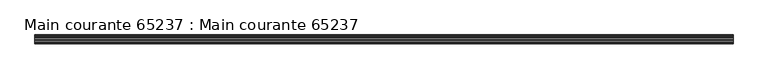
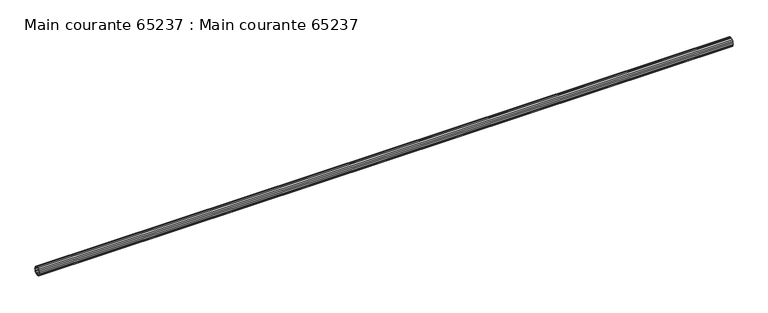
"""IFC4 building model written with IfcOpenShell, lengths in millimetres: beam geometry, Main courante 65237 : Main courante 65237."""

import ifcopenshell
import ifcopenshell.guid

model = None  # the IFC model being written
_history = None  # IfcOwnerHistory: only IFC2X3 demands one
_inside = {}  # id of a spatial element -> (the spatial element, [elements in it])
_under = {}  # id of a project, library or spatial element -> (it, [spatial elements below it])
_declared = {}  # id of a project -> (the project, [libraries it declares])
_typed = {}  # id of a type object -> (the type object, [elements of that type])
_made_of = {}  # id of a material, layer set ... -> (it, [elements and type objects made of it])


def new_model(schema):
    """Start an empty IFC model of exactly this schema.

    Asked for "IFC4X3", IfcOpenShell would pick the latest addendum, in which some entities
    have other attributes; the version numbers below select the first issue.
    IFC2X3 requires an IfcOwnerHistory on every rooted entity: one is made here for all.
    """
    global model, _history
    if schema == "IFC4X3":
        model = ifcopenshell.file(schema_version=(4, 3, 0, 0))
    else:
        model = ifcopenshell.file(schema=schema)
    _inside.clear()
    _under.clear()
    _declared.clear()
    _typed.clear()
    _made_of.clear()
    _history = None
    if model.schema == "IFC2X3":
        org = make("IfcOrganization", Name="unknown")
        user = make(
            "IfcPersonAndOrganization",
            ThePerson=make("IfcPerson", FamilyName="unknown"),
            TheOrganization=org,
        )
        app = make(
            "IfcApplication",
            ApplicationDeveloper=org,
            Version="unknown",
            ApplicationFullName="unknown",
            ApplicationIdentifier="unknown",
        )
        _history = make(
            "IfcOwnerHistory",
            OwningUser=user,
            OwningApplication=app,
            ChangeAction="ADDED",
            CreationDate=0,
        )
    return model


def make(cls, **values):
    """One entity of the class cls with the attributes given. An attribute that is None is left unset."""
    return model.create_entity(
        cls, **{name: value for name, value in values.items() if value is not None}
    )


def rooted(cls, **values):
    """An entity with a GlobalId (a new one), such as an element, a storey or a relation."""
    return make(cls, GlobalId=ifcopenshell.guid.new(), OwnerHistory=_history, **values)


def si_unit(unit_type, name, prefix=None):
    """IfcSIUnit, for example si_unit("LENGTHUNIT", "METRE", prefix="MILLI")."""
    return make("IfcSIUnit", UnitType=unit_type, Prefix=prefix, Name=name)


def assignment(units):
    """IfcUnitAssignment: the units of a project."""
    return None if units is None else make("IfcUnitAssignment", Units=units)


def point(xyz):
    """IfcCartesianPoint."""
    return None if xyz is None else make("IfcCartesianPoint", Coordinates=xyz)


def direction(xyz):
    """IfcDirection."""
    return None if xyz is None else make("IfcDirection", DirectionRatios=xyz)


def frame(location, z_axis=None, x_axis=None):
    """IfcAxis2Placement3D, a coordinate frame: its origin and axes. An axis left out is left unset."""
    return make(
        "IfcAxis2Placement3D",
        Location=point(location),
        Axis=direction(z_axis),
        RefDirection=direction(x_axis),
    )


def origin():
    """The frame at (0, 0, 0) with its axes left unset."""
    return frame((0.0, 0.0, 0.0))


def place(relative_to, where):
    """IfcLocalPlacement: puts the frame where relative to a parent placement (None: the world)."""
    return make(
        "IfcLocalPlacement", PlacementRelTo=relative_to, RelativePlacement=where
    )


def context(
    kind, dimensions, precision=None, world=None, true_north=None, identifier=None
):
    """IfcGeometricRepresentationContext, for example the 3D "Model" context."""
    return make(
        "IfcGeometricRepresentationContext",
        ContextIdentifier=identifier,
        ContextType=kind,
        CoordinateSpaceDimension=dimensions,
        Precision=precision,
        WorldCoordinateSystem=world,
        TrueNorth=true_north,
    )


def project(units=None, contexts=None):
    """IfcProject with its units and contexts."""
    return rooted(
        "IfcProject",
        Name="project",
        RepresentationContexts=contexts,
        UnitsInContext=assignment(units),
    )


def spatial(cls, under=None, at=None, **own):
    """A site, building, storey or space (cls), placed at a placement, below another one or the project."""
    s = rooted(cls, ObjectPlacement=at, **own)
    if under is not None:
        _under.setdefault(under.id(), (under, []))[1].append(s)
    return s


def polyline(points):
    """IfcPolyline through the points."""
    return make("IfcPolyline", Points=[point(p) for p in points])


def outline(outer, holes=None, kind="AREA"):
    """IfcArbitraryClosedProfileDef: a profile drawn as a closed curve; with holes, ...WithVoids."""
    if holes is None:
        return make("IfcArbitraryClosedProfileDef", ProfileType=kind, OuterCurve=outer)
    return make(
        "IfcArbitraryProfileDefWithVoids",
        ProfileType=kind,
        OuterCurve=outer,
        InnerCurves=holes,
    )


def extrude(swept, where, along, depth):
    """IfcExtrudedAreaSolid: the profile swept, set in the frame where, extruded along a direction by depth."""
    return make(
        "IfcExtrudedAreaSolid",
        SweptArea=swept,
        Position=where,
        ExtrudedDirection=direction(along),
        Depth=depth,
    )


def shape(context_of_items, identifier, shape_type, items):
    """IfcShapeRepresentation: the items that make up one representation, for example the "Body"."""
    return make(
        "IfcShapeRepresentation",
        ContextOfItems=context_of_items,
        RepresentationIdentifier=identifier,
        RepresentationType=shape_type,
        Items=items,
    )


def source(mapping_origin, context_of_items, identifier, shape_type, items):
    """IfcRepresentationMap: a shape defined once, which mapped items show again and again."""
    return make(
        "IfcRepresentationMap",
        MappingOrigin=mapping_origin,
        MappedRepresentation=shape(context_of_items, identifier, shape_type, items),
    )


def transform(
    local_origin,
    x_axis=None,
    y_axis=None,
    z_axis=None,
    scale=None,
    scale2=None,
    scale3=None,
    uniform=True,
):
    """IfcCartesianTransformationOperator3D, or its non-uniform kind. x_axis, y_axis, z_axis: its Axis1, 2, 3."""
    if uniform:
        return make(
            "IfcCartesianTransformationOperator3D",
            Axis1=direction(x_axis),
            Axis2=direction(y_axis),
            LocalOrigin=point(local_origin),
            Scale=scale,
            Axis3=direction(z_axis),
        )
    return make(
        "IfcCartesianTransformationOperator3DnonUniform",
        Axis1=direction(x_axis),
        Axis2=direction(y_axis),
        LocalOrigin=point(local_origin),
        Scale=scale,
        Axis3=direction(z_axis),
        Scale2=scale2,
        Scale3=scale3,
    )


def mapped(mapping_source, mapping_target):
    """IfcMappedItem: shows the shape of a source again, moved by a transform."""
    return make(
        "IfcMappedItem", MappingSource=mapping_source, MappingTarget=mapping_target
    )


def made_of(thing, what):
    """Note that an element or type object is made of a material, layer set ...; save() writes the relation."""
    if what is not None:
        _made_of.setdefault(what.id(), (what, []))[1].append(thing)
    return thing


def element(
    cls,
    number,
    at=None,
    inside=None,
    cuts=None,
    type_object=None,
    material=None,
    context=None,
    identifier="Body",
    shape_type=None,
    held_by="IfcProductDefinitionShape",
    body=None,
    shapes=None,
    **own,
):
    """One element of the class cls, such as IfcWall. Its Tag is "e" and its number.

    at: its placement. inside: the storey or other place that contains it. cuts: it is an
    opening in that element (IfcRelVoidsElement). A single representation is given by context,
    identifier, shape_type and body (its items); several are given by shapes. held_by: the class
    of the entity that holds the representations. save() writes the other relations.
    """
    e = rooted(cls, Tag="e%d" % number, ObjectPlacement=at, **own)
    if body is not None:
        shapes = [shape(context, identifier, shape_type, body)]
    if shapes is not None:
        e.Representation = make(held_by, Representations=shapes)
    if inside is not None:
        _inside.setdefault(inside.id(), (inside, []))[1].append(e)
    if cuts is not None:
        rooted(
            "IfcRelVoidsElement", RelatingBuildingElement=cuts, RelatedOpeningElement=e
        )
    if type_object is not None:
        _typed.setdefault(type_object.id(), (type_object, []))[1].append(e)
    return made_of(e, material)


def aggregate(whole, parts):
    """IfcRelAggregates: a whole, such as a stair, and the parts it consists of."""
    return rooted("IfcRelAggregates", RelatingObject=whole, RelatedObjects=parts)


def save(model, path):
    """Write the relations noted so far, then the file.

    IfcRelAggregates (storeys below a building ...), IfcRelContainedInSpatialStructure (elements
    in a storey), IfcRelDefinesByType, IfcRelAssociatesMaterial and IfcRelDeclares: one each for
    every whole, place, type object, material and project.
    """
    for whole, parts in _under.values():
        aggregate(whole, parts)
    for where, things in _inside.values():
        rooted(
            "IfcRelContainedInSpatialStructure",
            RelatedElements=things,
            RelatingStructure=where,
        )
    for kind, things in _typed.values():
        rooted("IfcRelDefinesByType", RelatedObjects=things, RelatingType=kind)
    for what, things in _made_of.values():
        rooted("IfcRelAssociatesMaterial", RelatedObjects=things, RelatingMaterial=what)
    for by, libraries in _declared.values():
        rooted("IfcRelDeclares", RelatingContext=by, RelatedDefinitions=libraries)
    model.write(path)


def main_courante_65237_main_courante_65237_7609eb7e(model_context):
    return source(origin(), model_context, "Body", "SweptSolid", [
        extrude(outline(polyline([(-24939.3127604, 9262.9680149), (-24931.85, 9264.15), (-24924.3872396, 9262.9680149), (-24917.6549862, 9259.5377604), (-24912.3122396, 9254.1950138), (-24908.8819851, 9247.4627604), (-24907.7, 9240.0), (-24908.8819851, 9232.5372396), (-24912.3122396, 9225.8049862), (-24917.6549862, 9220.4622396), (-24924.3872396, 9217.0319851), (-24931.85, 9215.85), (-24939.3127604, 9217.0319851), (-24946.0450138, 9220.4622396), (-24951.3877604, 9225.8049862), (-24954.8180149, 9232.5372396), (-24956.0, 9240.0), (-24954.8180149, 9247.4627604), (-24951.3877604, 9254.1950138), (-24946.0450138, 9259.5377604), (-24939.3127604, 9262.9680149)]), holes=[polyline([(-24910.2, 9240.0), (-24911.2596264, 9246.6902179), (-24914.3347821, 9252.7255507), (-24919.1244493, 9257.5152179), (-24925.1597821, 9260.5903736), (-24931.85, 9261.65), (-24938.5402179, 9260.5903736), (-24944.5755507, 9257.5152179), (-24949.3652179, 9252.7255507), (-24952.4403736, 9246.6902179), (-24953.5, 9240.0), (-24952.4403736, 9233.3097821), (-24949.3652179, 9227.2744493), (-24944.5755507, 9222.4847821), (-24938.5402179, 9219.4096264), (-24931.85, 9218.35), (-24925.1597821, 9219.4096264), (-24919.1244493, 9222.4847821), (-24914.3347821, 9227.2744493), (-24911.2596264, 9233.3097821), (-24910.2, 9240.0)])]), frame((3742.4999999, 0.0, 0.0), z_axis=(1.0, 0.0, 0.0), x_axis=(0.0, 1.0, 0.0)), (0.0, 0.0, 1.0), 3832.5),
    ])


if __name__ == "__main__":
    model = new_model("IFC4")
    model_context = context("Model", 3, world=origin())
    ifc_project = project(units=[si_unit("LENGTHUNIT", "METRE", prefix="MILLI")], contexts=[model_context])
    site = spatial("IfcSite", under=ifc_project)
    building = spatial("IfcBuilding", under=site)
    placement = place(None, origin())
    main_courante_65237_main_courante_65237_shape = main_courante_65237_main_courante_65237_7609eb7e(model_context)
    element("IfcBeam", 1, ObjectType="Main courante 65237 : Main courante 65237", at=placement, inside=building, context=model_context, shape_type="MappedRepresentation", body=[
        mapped(main_courante_65237_main_courante_65237_shape, transform((0.0, 0.0, 0.0), x_axis=(1.0, 0.0, 0.0), y_axis=(0.0, 1.0, 0.0), z_axis=(0.0, 0.0, 1.0))),
    ])
    save(model, "model.ifc")
